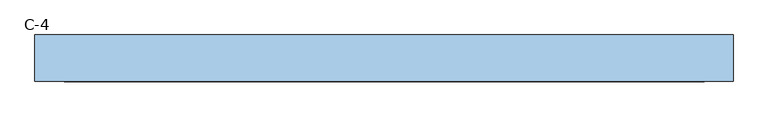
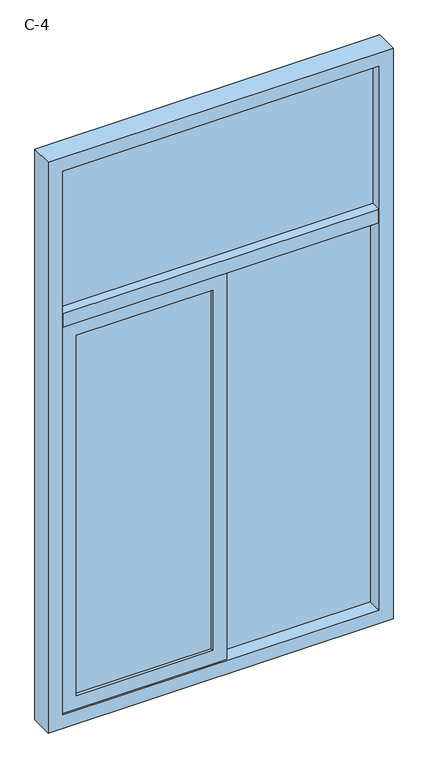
"""IFC4 building model written with IfcOpenShell, lengths in millimetres: window geometry, 组合窗 - 双层单列(固定+推拉) : C-4."""

from ifc_helpers import new_model, si_unit, frame, origin, place, context, project, spatial, polyline, outline, extrude, source, transform, mapped, element, save


def c_4_3f02acb8(model_context):
    return source(origin(), model_context, "Body", "SweptSolid", [
        extrude(outline(polyline([(550.0, 10.0), (-550.0, 10.0), (-550.0, 20.0), (550.0, 20.0), (550.0, 10.0)])), frame((0.0, 0.0, 2425.0), z_axis=(0.0, 0.0, 1.0), x_axis=(1.0, 0.0, 0.0)), (0.0, 0.0, 1.0), 525.0),
        extrude(outline(polyline([(-500.0, 0.0), (-25.0, 0.0), (-25.0, -10.0), (-500.0, -10.0), (-500.0, 0.0)])), frame((0.0, 0.0, 1000.0), z_axis=(0.0, 0.0, 1.0), x_axis=(1.0, 0.0, 0.0)), (0.0, 0.0, 1.0), 1325.0),
        extrude(outline(polyline([(25.0, 35.0), (550.0, 35.0), (550.0, 25.0), (25.0, 25.0), (25.0, 35.0)])), frame((0.0, 0.0, 950.0), z_axis=(0.0, 0.0, 1.0), x_axis=(1.0, 0.0, 0.0)), (0.0, 0.0, 1.0), 1425.0),
        extrude(outline(polyline([(25.0, 45.0), (25.0, 15.0), (-25.0, 15.0), (-25.0, 45.0), (25.0, 45.0)])), frame((0.0, 0.0, 950.0), z_axis=(0.0, 0.0, 1.0), x_axis=(1.0, 0.0, 0.0)), (0.0, 0.0, 1.0), 1425.0),
        extrude(outline(polyline([(2375.0, 25.0), (2375.0, -550.0), (950.0, -550.0), (950.0, 25.0), (2375.0, 25.0)]), holes=[polyline([(1000.0, -25.0), (1000.0, -500.0), (2325.0, -500.0), (2325.0, -25.0), (1000.0, -25.0)])]), frame((0.0, -20.0, 0.0), z_axis=(0.0, 1.0, 0.0), x_axis=(0.0, 0.0, 1.0)), (0.0, 0.0, 1.0), 30.0),
        extrude(outline(polyline([(-550.0, 55.0), (550.0, 55.0), (550.0, -25.0), (-550.0, -25.0), (-550.0, 55.0)])), frame((0.0, 0.0, 2375.0), z_axis=(0.0, 0.0, 1.0), x_axis=(1.0, 0.0, 0.0)), (0.0, 0.0, 1.0), 50.0),
        extrude(outline(polyline([(3000.0, -600.0), (900.0, -600.0), (900.0, 600.0), (3000.0, 600.0), (3000.0, -600.0)]), holes=[polyline([(2950.0, 550.0), (950.0, 550.0), (950.0, -550.0), (2950.0, -550.0), (2950.0, 550.0)])]), frame((0.0, -25.0, 0.0), z_axis=(0.0, 1.0, 0.0), x_axis=(0.0, 0.0, 1.0)), (0.0, 0.0, 1.0), 80.0),
    ])


if __name__ == "__main__":
    model = new_model("IFC4")
    model_context = context("Model", 3, world=origin())
    ifc_project = project(units=[si_unit("LENGTHUNIT", "METRE", prefix="MILLI")], contexts=[model_context])
    site = spatial("IfcSite", under=ifc_project)
    building = spatial("IfcBuilding", under=site)
    placement = place(None, origin())
    c_4_shape = c_4_3f02acb8(model_context)
    element("IfcWindow", 1, ObjectType="组合窗 - 双层单列(固定+推拉) : C-4", at=placement, inside=building, context=model_context, shape_type="MappedRepresentation", body=[
        mapped(c_4_shape, transform((0.0, 0.0, 0.0), x_axis=(1.0, 0.0, 0.0), y_axis=(0.0, 1.0, 0.0), z_axis=(0.0, 0.0, 1.0))),
    ])
    save(model, "model.ifc")
